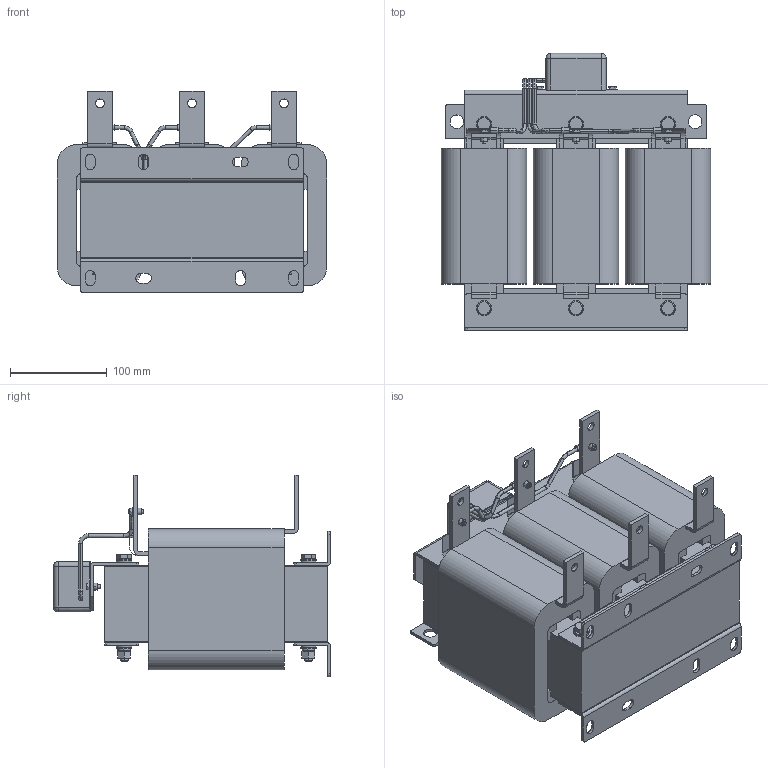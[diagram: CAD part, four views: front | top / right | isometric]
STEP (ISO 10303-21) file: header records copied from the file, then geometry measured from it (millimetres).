
FILE_DESCRIPTION (( 'STEP AP203' ), '1' );
FILE_NAME ('婰錪襝 dU_dT _ IDUDT-110_138-6.STEP', '2026-05-06T12:27:14', ( '' ), ( '' ), 'SwSTEP 2.0', 'SolidWorks 2021', '' );
FILE_SCHEMA (( 'CONFIG_CONTROL_DESIGN' ));
Length unit declared in the file: millimetre
Products named in the file (44): DVT-线圈-132kW_12; 电容引线-132kW_2; DVT-线圈-132kW_9; plain washers--product grade c gb_GB_FASTENER_WASHER_SMWC 8; DVT-线圈-132kW_1; spring lock washers--normal type gb_GB_FASTENER_WASHER_SW 8; RNB3.5-4; M8ﾂﾝﾄｸ+ｵｯ+ﾋｫﾆｽ_5; 婰錪襝 dU_dT _ IDUDT-110_138-6; DVT-线圈-132kW; M4℅12坋趼鞠褒芛蹟邡; DVT-线圈-132kW_13; M8ﾂﾝﾄｸ+ｵｯ+ﾋｫﾆｽ; 电容引线-132kW; M8℅105蹟裝; 电容引线-132kW_1; DVT-线圈-132kW_7; DVT-线圈-132kW_10; DVT-线圈-132kW_2; 三相铁芯230-40-78-H230; DVT-内出线排25×4-110kW; ﾏﾂｼﾐｼ-230｡ﾁ38｡ﾁ35; DVT-线圈-132kW_8; 电容盒-SKS-0901.601-LJ-A2; DVT-线圈-132kW_5; DVT-外出线排25×4-60; M4す菜; ﾉﾏｼﾐｼ250｡ﾁ35｡ﾁ3; RNB1.25-4; DVT-线圈-132kW_6; M8ﾂﾝﾄｸ+ｵｯ+ﾋｫﾆｽ_4; hex nut-fine pitch-style washer-grade ab gb_GB_HEXAGON_TYPE10_1 M8X1-N; 0.25橈埽祧-35; DVT-线圈-132kW_3; M8ﾂﾝﾄｸ+ｵｯ+ﾋｫﾆｽ_2; DVT-线圈-132kW_4; ﾉﾏｼﾐｼ-250｡ﾁ50｡ﾁ50; M8ﾂﾝﾄｸ+ｵｯ+ﾋｫﾆｽ_1; DVT-线圈-132kW_11; DVT-线圈-132kW_14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
Assembly tree (100 placements, depth 3):
  婰錪襝 dU_dT _ IDUDT-110_138-6
    三相铁芯230-40-78-H230
    嶺啣沭40-230  x6
    ﾉﾏｼﾐｼ250｡ﾁ35｡ﾁ3
    ﾏﾂｼﾐｼ-230｡ﾁ38｡ﾁ35  x2
    plain washers--product grade c gb_GB_FASTENER_WASHER_SMWC 8  x12
    M8℅105蹟裝  x6
    M8ﾂﾝﾄｸ+ｵｯ+ﾋｫﾆｽ
      hex nut-fine pitch-style washer-grade ab gb_GB_HEXAGON_TYPE10_1 M8X1-N
      spring lock washers--normal type gb_GB_FASTENER_WASHER_SW 8
      plain washers--product grade c gb_GB_FASTENER_WASHER_SMWC 8  x2
    M8ﾂﾝﾄｸ+ｵｯ+ﾋｫﾆｽ_1
      hex nut-fine pitch-style washer-grade ab gb_GB_HEXAGON_TYPE10_1 M8X1-N
      spring lock washers--normal type gb_GB_FASTENER_WASHER_SW 8
      plain washers--product grade c gb_GB_FASTENER_WASHER_SMWC 8  x2
    DVT-外出线排25×4-60  x3
    M8ﾂﾝﾄｸ+ｵｯ+ﾋｫﾆｽ_2
      hex nut-fine pitch-style washer-grade ab gb_GB_HEXAGON_TYPE10_1 M8X1-N
      spring lock washers--normal type gb_GB_FASTENER_WASHER_SW 8
      plain washers--product grade c gb_GB_FASTENER_WASHER_SMWC 8  x2
    M8ﾂﾝﾄｸ+ｵｯ+ﾋｫﾆｽ_3
      hex nut-fine pitch-style washer-grade ab gb_GB_HEXAGON_TYPE10_1 M8X1-N
      spring lock washers--normal type gb_GB_FASTENER_WASHER_SW 8
      plain washers--product grade c gb_GB_FASTENER_WASHER_SMWC 8  x2
    M8ﾂﾝﾄｸ+ｵｯ+ﾋｫﾆｽ_4
      hex nut-fine pitch-style washer-grade ab gb_GB_HEXAGON_TYPE10_1 M8X1-N
      spring lock washers--normal type gb_GB_FASTENER_WASHER_SW 8
      plain washers--product grade c gb_GB_FASTENER_WASHER_SMWC 8  x2
    M8ﾂﾝﾄｸ+ｵｯ+ﾋｫﾆｽ_5
      hex nut-fine pitch-style washer-grade ab gb_GB_HEXAGON_TYPE10_1 M8X1-N
      spring lock washers--normal type gb_GB_FASTENER_WASHER_SW 8
      plain washers--product grade c gb_GB_FASTENER_WASHER_SMWC 8  x2
    ﾉﾏｼﾐｼ-250｡ﾁ50｡ﾁ50
    电容盒-SKS-0901.601-LJ-A2
    M4℅12坋趼鞠褒芛蹟邡  x5
    DVT-内出线排25×4-110kW  x3
    RNB1.25-4
    M4す菜  x3
    RNB3.5-4  x2
    电容引线-132kW
      电容引线-132kW_1
      电容引线-132kW
      电容引线-132kW_2
    0.25橈埽祧-35  x3
    DVT-线圈-132kW
      DVT-线圈-132kW_9
      DVT-线圈-132kW_12
      DVT-线圈-132kW_4
      DVT-线圈-132kW_2
      DVT-线圈-132kW_11
      DVT-线圈-132kW_6
      DVT-线圈-132kW_10
      DVT-线圈-132kW
      DVT-线圈-132kW_7
      DVT-线圈-132kW_5
      DVT-线圈-132kW_1
      DVT-线圈-132kW_13
      DVT-线圈-132kW_3
      DVT-线圈-132kW_8
      DVT-线圈-132kW_14
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Bounding box: 278 x 286 x 208 mm (x, y, z)
Volume: 6784960.1 mm3; surface area: 1006928.3 mm2
Topology: 92 solids, 92 shells, 1318 faces, 3120 edges, 2022 vertices
Faces by surface type: plane 663, cylinder 458, cone 166, bspline 26, sphere 5
Entity records: 24447 total; most frequent: CARTESIAN_POINT 3546, DIRECTION 3301, ORIENTED_EDGE 2880, EDGE_CURVE 1440, AXIS2_PLACEMENT_3D 1221, VERTEX_POINT 938, VECTOR 859, LINE 859
